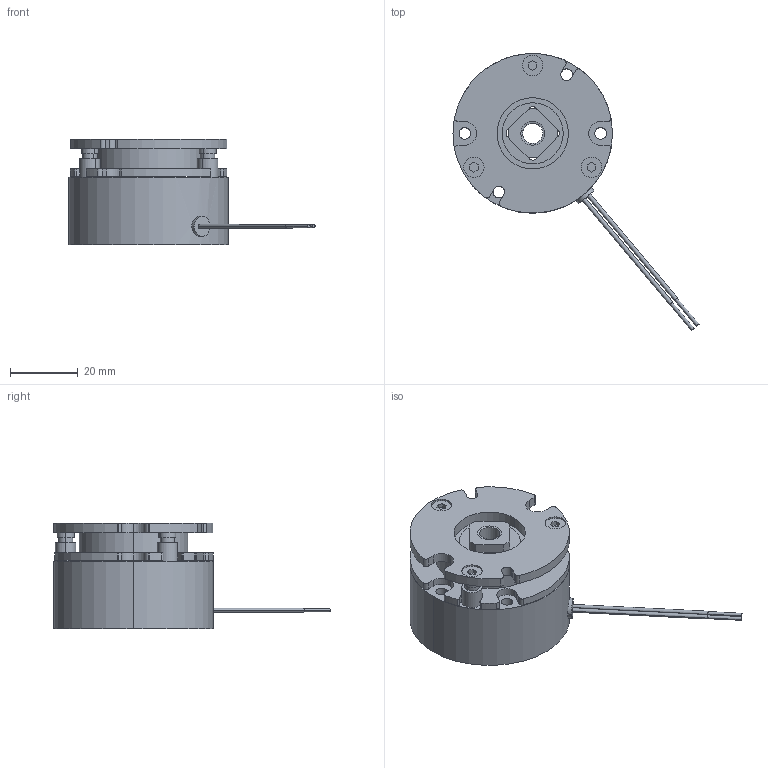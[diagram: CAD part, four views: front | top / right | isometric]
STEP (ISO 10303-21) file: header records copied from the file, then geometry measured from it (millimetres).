
FILE_DESCRIPTION (( 'STEP AP214' ), '1' );
FILE_NAME ('BXW-02-10H-6.STEP', '2017-06-12T00:39:40', ( 'MIKI' ), ( '' ), 'SwSTEP 2.0', 'SolidWorks 2012', '' );
FILE_SCHEMA (( 'AUTOMOTIVE_DESIGN' ));
Length unit declared in the file: millimetre
Products named in the file (1): BXW-02-10H-6
Bounding box: 72.5 x 81.5 x 31.2 mm (x, y, z)
Volume: 41805.9 mm3; surface area: 16411.7 mm2
Topology: 1 solids, 1 shells, 259 faces, 671 edges, 436 vertices
Faces by surface type: cylinder 139, plane 104, cone 16
Entity records: 11088 total; most frequent: CARTESIAN_POINT 1603, DIRECTION 1449, ORIENTED_EDGE 1334, EDGE_CURVE 667, AXIS2_PLACEMENT_3D 540, VERTEX_POINT 436, LINE 369, VECTOR 369
